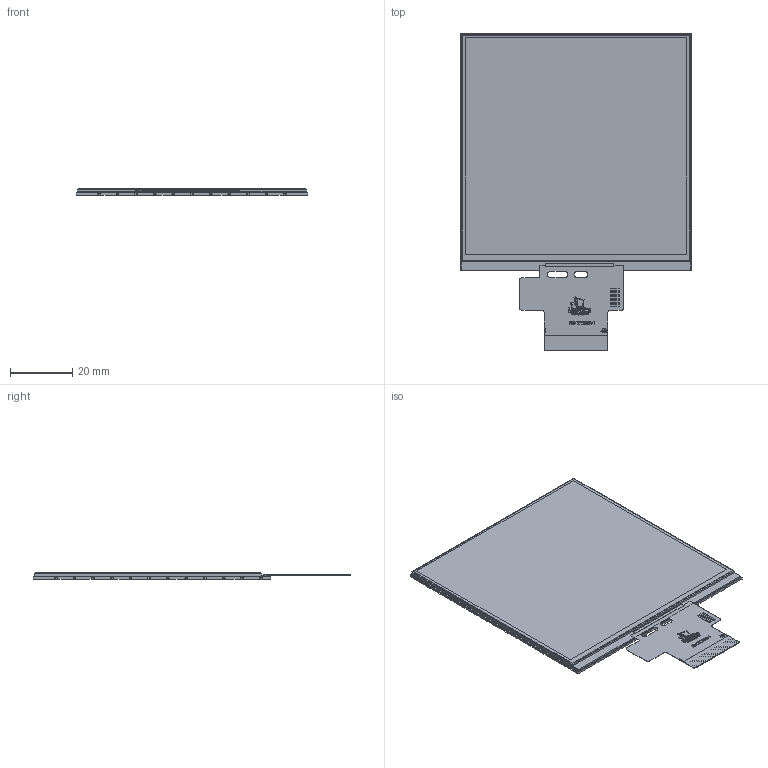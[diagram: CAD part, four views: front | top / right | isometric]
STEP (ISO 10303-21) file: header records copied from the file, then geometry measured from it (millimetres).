
FILE_DESCRIPTION (( 'STEP AP214' ), '1' );
FILE_NAME ('ER-TFT3.92-1.STEP', '2024-08-27T06:41:24', ( '微软用户' ), ( '微软中国' ), 'SwSTEP 2.0', 'SolidWorks 2023', '' );
FILE_SCHEMA (( 'AUTOMOTIVE_DESIGN' ));
Length unit declared in the file: millimetre
Products named in the file (1): ER-TFT3.92-1
Bounding box: 74.66 x 102.31 x 2.04 mm (x, y, z)
Volume: 11440.1 mm3; surface area: 13449.9 mm2
Topology: 47 solids, 47 shells, 998 faces, 2789 edges, 1896 vertices
Faces by surface type: plane 583, bspline 297, cylinder 118
Entity records: 44147 total; most frequent: CARTESIAN_POINT 18813, ORIENTED_EDGE 5578, DIRECTION 3927, EDGE_CURVE 2789, VERTEX_POINT 1896, VECTOR 1867, LINE 1867, EDGE_LOOP 1039
